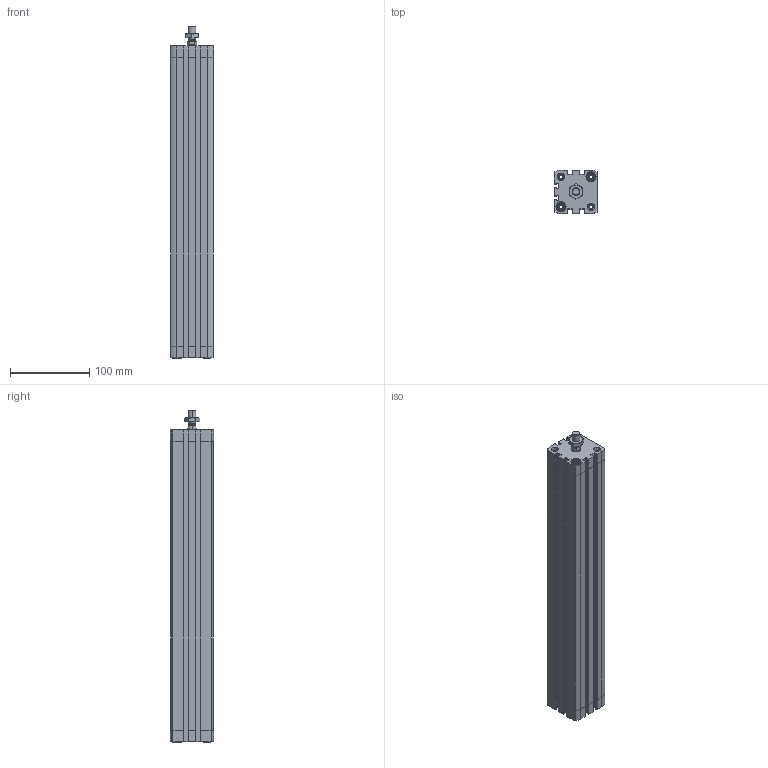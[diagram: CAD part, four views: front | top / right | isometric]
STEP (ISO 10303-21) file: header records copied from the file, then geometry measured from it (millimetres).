
FILE_DESCRIPTION (( 'STEP AP203' ), '1' );
FILE_NAME ('CCN40-350M.STEP', '2017-04-06T12:53:05', ( '' ), ( '' ), 'SwSTEP 2.0', 'SolidWorks 2016', '' );
FILE_SCHEMA (( 'CONFIG_CONTROL_DESIGN' ));
Length unit declared in the file: millimetre
Products named in the file (4): CCN-350----(Z); CCN-350_(KS); _DIN-439-B - M10x1.25(F); CCN40-350M
Assembly tree (3 placements, depth 2):
  CCN40-350M
    CCN-350----(Z)
    CCN-350_(KS)
    _DIN-439-B - M10x1.25(F)
Bounding box: 54.5 x 54.5 x 420.1 mm (x, y, z)
Volume: 621485.3 mm3; surface area: 216616.6 mm2
Topology: 3 solids, 3 shells, 499 faces, 1334 edges, 872 vertices
Faces by surface type: plane 275, cylinder 172, cone 48, bspline 4
Entity records: 16246 total; most frequent: CARTESIAN_POINT 3119, DIRECTION 2720, ORIENTED_EDGE 2668, EDGE_CURVE 1334, AXIS2_PLACEMENT_3D 997, VERTEX_POINT 872, VECTOR 726, LINE 726
